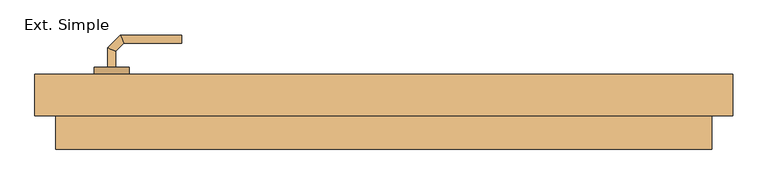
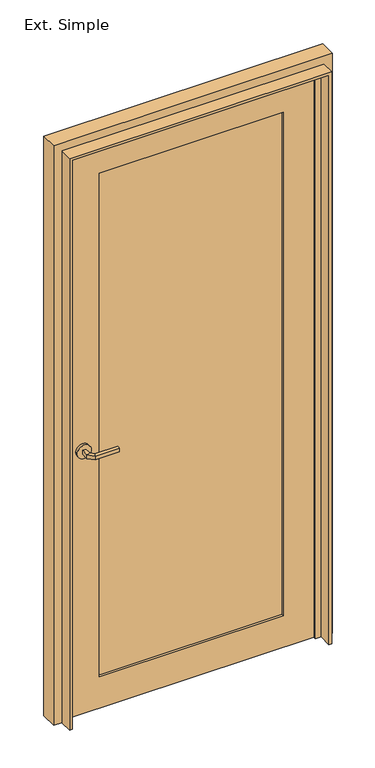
"""IFC4 building model written with IfcOpenShell, lengths in millimetres: door geometry, Ext. Simple : Lisse - 0.90 m x 2.15 m."""

from ifc_helpers import new_model, si_unit, point, frame, frame_2d, origin, place, context, project, spatial, circle_curve, ellipse_curve, trimmed, segment, composite_curve, outline, extrude, faceted_brep, source, transform, mapped, element, save
from ifc_brep_helpers import plane_surface, cylinder_surface, advanced_brep


def ext_simple_6eb875e1(model_context):
    return source(origin(), model_context, "Body", "SolidModel", [
        extrude(outline(composite_curve([segment(trimmed(circle_curve(frame_2d((1000.0, -400.0)), 25.0), [point((1000.0, -425.0))], [point((1000.0, -375.0))], False, "CARTESIAN"), True, "CONTINUOUS"), segment(trimmed(circle_curve(frame_2d((1000.0, -400.0)), 25.0), [point((1000.0, -375.0))], [point((1000.0, -425.0))], False, "CARTESIAN"), True, "CONTINUOUS")], self_intersect=False)), frame((0.0, 160.0, 0.0), z_axis=(0.0, 1.0, 0.0), x_axis=(0.0, 0.0, 1.0)), (0.0, 0.0, 1.0), 10.0),
        extrude(outline(composite_curve([segment(trimmed(circle_curve(frame_2d((1000.0, -400.0)), 25.0), [point((1000.0, -425.0))], [point((1000.0, -375.0))], False, "CARTESIAN"), True, "CONTINUOUS"), segment(trimmed(circle_curve(frame_2d((1000.0, -400.0)), 25.0), [point((1000.0, -375.0))], [point((1000.0, -425.0))], False, "CARTESIAN"), True, "CONTINUOUS")], self_intersect=False)), frame((0.0, 100.0, 0.0), z_axis=(0.0, 1.0, 0.0), x_axis=(0.0, 0.0, 1.0)), (0.0, 0.0, 1.0), 10.0),
        advanced_brep(
        [(-406.0, 170.0, 1007.0), (-406.0, 170.0, 993.0), (-394.0, 170.0, 993.0), (-394.0, 170.0, 1007.0), (-394.0, 192.680388, 1007.0), (-406.0, 197.6509507, 1007.0), (-394.0, 192.680388, 993.0), (-406.0, 197.6509507, 993.0), (-382.6522273, 204.0281607, 1007.0), (-387.62279, 216.0281607, 1007.0), (-382.6522273, 204.0281607, 993.0), (-387.62279, 216.0281607, 993.0), (-299.9813594, 216.0281607, 1007.0), (-299.9813594, 204.0281607, 1007.0), (-299.9813594, 204.0281607, 993.0), (-299.9813594, 216.0281607, 993.0)],
        [
            (0, 1),
            (1, 2, circle_curve(frame((-400.0, 170.0, 1013.0457722), z_axis=(0.0, -1.0, 0.0), x_axis=(1.0, 0.0, 0.0)), 20.9244589)),
            (2, 3),
            (3, 0, circle_curve(frame((-400.0, 170.0, 986.9542278), z_axis=(0.0, -1.0, 0.0), x_axis=(1.0, 0.0, 0.0)), 20.9244589)),
            (3, 4),
            (4, 5, ellipse_curve(frame((-400.0, 195.1656693, 986.9542278), z_axis=(-0.3826834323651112, -0.9238795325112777, 0.0), x_axis=(0.9238795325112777, -0.3826834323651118, 0.0)), 22.6484711, 20.9244589)),
            (5, 0),
            (2, 6),
            (6, 4),
            (1, 7),
            (7, 6, ellipse_curve(frame((-400.0, 195.1656693, 1013.0457722), z_axis=(-0.3826834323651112, -0.9238795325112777, 0.0), x_axis=(0.9238795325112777, -0.3826834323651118, 0.0)), 22.6484711, 20.9244589)),
            (5, 7),
            (4, 8),
            (8, 9, ellipse_curve(frame((-385.1375086, 210.0281607, 986.9542278), z_axis=(-0.9238795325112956, -0.38268343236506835, 0.0), x_axis=(0.3826834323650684, -0.9238795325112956, 0.0)), 22.6484711, 20.9244589)),
            (9, 5),
            (6, 10),
            (10, 8),
            (7, 11),
            (11, 10, ellipse_curve(frame((-385.1375086, 210.0281607, 1013.0457722), z_axis=(-0.9238795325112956, -0.38268343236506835, 0.0), x_axis=(0.3826834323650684, -0.9238795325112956, 0.0)), 22.6484711, 20.9244589)),
            (9, 11),
            (12, 13, circle_curve(frame((-299.9813594, 210.0281607, 986.9542278), z_axis=(1.0, 0.0, 0.0), x_axis=(0.0, -1.0, 0.0)), 20.9244589)),
            (13, 14),
            (14, 15, circle_curve(frame((-299.9813594, 210.0281607, 1013.0457722), z_axis=(1.0, 0.0, 0.0), x_axis=(0.0, -1.0, 0.0)), 20.9244589)),
            (15, 12),
            (8, 13),
            (12, 9),
            (10, 14),
            (11, 15),
        ],
        [
            plane_surface(frame((-409.2195445, 170.0, 1000.0), z_axis=(0.0, -1.0, 0.0), x_axis=(0.0, 0.0, -1.0))),
            cylinder_surface(frame((-400.0, 170.0, 986.9542278), z_axis=(0.0, -1.0, 0.0), x_axis=(1.0, 0.0, 0.0)), 20.9244589),
            plane_surface(frame((-394.0, 170.0, 1007.0), z_axis=(1.0, 0.0, 0.0), x_axis=(0.0, 1.0, 0.0))),
            cylinder_surface(frame((-400.0, 170.0, 1013.0457722), z_axis=(0.0, -1.0, 0.0), x_axis=(1.0, 0.0, 0.0)), 20.9244589),
            plane_surface(frame((-406.0, 170.0, 993.0), z_axis=(-1.0, 0.0, 0.0), x_axis=(0.0, 1.0, 0.0))),
            cylinder_surface(frame((-400.0, 195.1656693, 986.9542278), z_axis=(-0.7071067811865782, -0.7071067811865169, 0.0), x_axis=(0.7071067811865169, -0.7071067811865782, 0.0)), 20.9244589),
            plane_surface(frame((-394.0, 192.680388, 1007.0), z_axis=(0.7071067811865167, -0.7071067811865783, 0.0), x_axis=(0.7071067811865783, 0.7071067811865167, 0.0))),
            cylinder_surface(frame((-400.0, 195.1656693, 1013.0457722), z_axis=(-0.7071067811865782, -0.7071067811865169, 0.0), x_axis=(0.7071067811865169, -0.7071067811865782, 0.0)), 20.9244589),
            plane_surface(frame((-406.0, 197.6509507, 993.0), z_axis=(-0.7071067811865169, 0.7071067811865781, 0.0), x_axis=(0.7071067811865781, 0.7071067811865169, 0.0))),
            plane_surface(frame((-299.9813594, 210.0281607, 990.7804555), z_axis=(1.0, 0.0, 0.0), x_axis=(0.0, -1.0, 0.0))),
            cylinder_surface(frame((-385.1375086, 210.0281607, 986.9542278), z_axis=(-1.0, 0.0, 0.0), x_axis=(0.0, -1.0, 0.0)), 20.9244589),
            plane_surface(frame((-382.6522273, 204.0281607, 1007.0), z_axis=(0.0, -1.0, 0.0), x_axis=(1.0, 0.0, 0.0))),
            cylinder_surface(frame((-385.1375086, 210.0281607, 1013.0457722), z_axis=(-1.0, 0.0, 0.0), x_axis=(0.0, -1.0, 0.0)), 20.9244589),
            plane_surface(frame((-387.62279, 216.0281607, 993.0), z_axis=(0.0, 1.0, 0.0), x_axis=(1.0, 0.0, 0.0))),
        ],
        [
            (0, [[1, 2, 3, 4]]),
            (1, [[5, 6, 7, -4]]),
            (2, [[8, 9, -5, -3]]),
            (3, [[10, 11, -8, -2]]),
            (4, [[-7, 12, -10, -1]]),
            (5, [[13, 14, 15, -6]]),
            (6, [[16, 17, -13, -9]]),
            (7, [[18, 19, -16, -11]]),
            (8, [[-15, 20, -18, -12]]),
            (9, [[21, 22, 23, 24]]),
            (10, [[25, -21, 26, -14]]),
            (11, [[27, -22, -25, -17]]),
            (12, [[28, -23, -27, -19]]),
            (13, [[-26, -24, -28, -20]]),
        ],
    ),
        advanced_brep(
        [(-394.0, 100.0, 993.0), (-406.0, 100.0, 993.0), (-406.0, 100.0, 1007.0), (-394.0, 100.0, 1007.0), (-394.0, 77.5147955, 1007.0), (-394.0, 77.5147955, 993.0), (-406.0, 72.5442327, 1007.0), (-406.0, 72.5442327, 993.0), (-382.5147186, 66.0295141, 1007.0), (-382.5147186, 66.0295141, 993.0), (-387.4852814, 54.0295141, 1007.0), (-387.4852814, 54.0295141, 993.0), (-299.9542163, 66.0295141, 993.0), (-299.9542163, 66.0295141, 1007.0), (-299.9542163, 54.0295141, 1007.0), (-299.9542163, 54.0295141, 993.0)],
        [
            (0, 1, circle_curve(frame((-400.0, 100.0, 1013.0457722), z_axis=(0.0, 1.0, 0.0), x_axis=(-1.0, 0.0, 0.0)), 20.9244589)),
            (1, 2),
            (2, 3, circle_curve(frame((-400.0, 100.0, 986.9542278), z_axis=(0.0, 1.0, 0.0), x_axis=(-1.0, 0.0, 0.0)), 20.9244589)),
            (3, 0),
            (3, 4),
            (4, 5),
            (5, 0),
            (2, 6),
            (6, 4, ellipse_curve(frame((-400.0, 75.0295141, 986.9542278), z_axis=(-0.3826834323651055, 0.9238795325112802, 0.0), x_axis=(0.9238795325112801, 0.3826834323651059, 0.0)), 22.6484711, 20.9244589)),
            (1, 7),
            (7, 6),
            (5, 7, ellipse_curve(frame((-400.0, 75.0295141, 1013.0457722), z_axis=(-0.3826834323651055, 0.9238795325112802, 0.0), x_axis=(0.9238795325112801, 0.3826834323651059, 0.0)), 22.6484711, 20.9244589)),
            (4, 8),
            (8, 9),
            (9, 5),
            (6, 10),
            (10, 8, ellipse_curve(frame((-385.0, 60.0295141, 986.9542278), z_axis=(-0.9238795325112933, 0.382683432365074, 0.0), x_axis=(0.38268343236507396, 0.9238795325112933, 0.0)), 22.6484711, 20.9244589)),
            (7, 11),
            (11, 10),
            (9, 11, ellipse_curve(frame((-385.0, 60.0295141, 1013.0457722), z_axis=(-0.9238795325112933, 0.382683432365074, 0.0), x_axis=(0.38268343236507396, 0.9238795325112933, 0.0)), 22.6484711, 20.9244589)),
            (12, 13),
            (13, 14, circle_curve(frame((-299.9542163, 60.0295141, 986.9542278), z_axis=(1.0, 0.0, 0.0), x_axis=(0.0, -1.0, 0.0)), 20.9244589)),
            (14, 15),
            (15, 12, circle_curve(frame((-299.9542163, 60.0295141, 1013.0457722), z_axis=(1.0, 0.0, 0.0), x_axis=(0.0, -1.0, 0.0)), 20.9244589)),
            (8, 13),
            (12, 9),
            (10, 14),
            (11, 15),
        ],
        [
            plane_surface(frame((-409.2195445, 100.0, 1000.0), z_axis=(0.0, 1.0, 0.0), x_axis=(0.0, 0.0, 1.0))),
            plane_surface(frame((-394.0, 100.0, 993.0), z_axis=(1.0, 0.0, 0.0), x_axis=(0.0, -1.0, 0.0))),
            cylinder_surface(frame((-400.0, 100.0, 986.9542278), z_axis=(0.0, 1.0, 0.0), x_axis=(-1.0, 0.0, 0.0)), 20.9244589),
            plane_surface(frame((-406.0, 100.0, 1007.0), z_axis=(-1.0, 0.0, 0.0), x_axis=(0.0, -1.0, 0.0))),
            cylinder_surface(frame((-400.0, 100.0, 1013.0457722), z_axis=(0.0, 1.0, 0.0), x_axis=(-1.0, 0.0, 0.0)), 20.9244589),
            plane_surface(frame((-394.0, 77.5147955, 993.0), z_axis=(0.7071067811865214, 0.7071067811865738, 0.0), x_axis=(0.7071067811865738, -0.7071067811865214, 0.0))),
            cylinder_surface(frame((-400.0, 75.0295141, 986.9542278), z_axis=(-0.7071067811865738, 0.7071067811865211, 0.0), x_axis=(-0.7071067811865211, -0.7071067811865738, 0.0)), 20.9244589),
            plane_surface(frame((-406.0, 72.5442327, 1007.0), z_axis=(-0.7071067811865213, -0.7071067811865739, 0.0), x_axis=(0.7071067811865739, -0.7071067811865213, 0.0))),
            cylinder_surface(frame((-400.0, 75.0295141, 1013.0457722), z_axis=(-0.7071067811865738, 0.7071067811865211, 0.0), x_axis=(-0.7071067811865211, -0.7071067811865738, 0.0)), 20.9244589),
            plane_surface(frame((-299.9542163, 60.0295141, 990.7804555), z_axis=(1.0, 0.0, 0.0), x_axis=(0.0, -1.0, 0.0))),
            plane_surface(frame((-382.5147186, 66.0295141, 993.0), z_axis=(0.0, 1.0, 0.0), x_axis=(1.0, 0.0, 0.0))),
            cylinder_surface(frame((-385.0, 60.0295141, 986.9542278), z_axis=(-1.0, 0.0, 0.0), x_axis=(0.0, -1.0, 0.0)), 20.9244589),
            plane_surface(frame((-387.4852814, 54.0295141, 1007.0), z_axis=(0.0, -1.0, 0.0), x_axis=(1.0, 0.0, 0.0))),
            cylinder_surface(frame((-385.0, 60.0295141, 1013.0457722), z_axis=(-1.0, 0.0, 0.0), x_axis=(0.0, -1.0, 0.0)), 20.9244589),
        ],
        [
            (0, [[1, 2, 3, 4]]),
            (1, [[5, 6, 7, -4]]),
            (2, [[8, 9, -5, -3]]),
            (3, [[10, 11, -8, -2]]),
            (4, [[-7, 12, -10, -1]]),
            (5, [[13, 14, 15, -6]]),
            (6, [[16, 17, -13, -9]]),
            (7, [[18, 19, -16, -11]]),
            (8, [[-15, 20, -18, -12]]),
            (9, [[21, 22, 23, 24]]),
            (10, [[25, -21, 26, -14]]),
            (11, [[27, -22, -25, -17]]),
            (12, [[28, -23, -27, -19]]),
            (13, [[-26, -24, -28, -20]]),
        ],
    ),
        faceted_brep([(-460.0, 110.0, 2150.0), (-460.0, 110.0, 0.0), (440.0, 110.0, 0.0), (440.0, 110.0, 2150.0), (-340.0, 110.0, 2030.0), (320.0, 110.0, 2030.0), (320.0, 110.0, 120.0), (-340.0, 110.0, 120.0), (-460.0, 160.0, 2150.0), (440.0, 160.0, 2150.0), (440.0, 160.0, 0.0), (-460.0, 160.0, 0.0), (320.0, 160.0, 2030.0), (-340.0, 160.0, 2030.0), (-340.0, 160.0, 120.0), (320.0, 160.0, 120.0), (320.0, 152.0, 2030.0), (320.0, 152.0, 120.0), (-340.0, 152.0, 120.0), (-340.0, 152.0, 2030.0), (-340.0, 118.0, 2030.0), (-340.0, 118.0, 120.0), (320.0, 118.0, 120.0), (320.0, 118.0, 2030.0)], [[[0, 1, 2, 3], [4, 5, 6, 7]], [[8, 9, 10, 11], [12, 13, 14, 15]], [[3, 9, 8, 0]], [[2, 10, 9, 3]], [[1, 11, 10, 2]], [[0, 8, 11, 1]], [[16, 17, 18, 19]], [[16, 12, 15, 17]], [[17, 15, 14, 18]], [[18, 14, 13, 19]], [[19, 13, 12, 16]], [[20, 21, 22, 23]], [[20, 4, 7, 21]], [[21, 7, 6, 22]], [[22, 6, 5, 23]], [[23, 5, 4, 20]]]),
        faceted_brep([(-510.0, 100.0, 0.0), (-510.0, 160.0, 0.0), (-460.0, 160.0, 0.0), (-460.0, 110.0, 0.0), (-450.0, 110.0, 0.0), (-450.0, 100.0, 0.0), (-470.0, 100.0, 0.0), (-470.0, 52.0, 0.0), (-480.0, 52.0, 0.0), (-480.0, 100.0, 0.0), (-480.0, 100.0, 2170.0), (460.0, 100.0, 2170.0), (460.0, 100.0, 0.0), (490.0, 100.0, 0.0), (490.0, 100.0, 2200.0), (-510.0, 100.0, 2200.0), (-480.0, 52.0, 2170.0), (-470.0, 52.0, 2160.0), (450.0, 52.0, 2160.0), (450.0, 52.0, 0.0), (460.0, 52.0, 0.0), (460.0, 52.0, 2170.0), (-470.0, 100.0, 2160.0), (-450.0, 100.0, 2140.0), (430.0, 100.0, 2140.0), (430.0, 100.0, 0.0), (450.0, 100.0, 0.0), (450.0, 100.0, 2160.0), (-450.0, 110.0, 2140.0), (-460.0, 110.0, 2150.0), (440.0, 110.0, 2150.0), (440.0, 110.0, 0.0), (430.0, 110.0, 0.0), (430.0, 110.0, 2140.0), (-460.0, 160.0, 2150.0), (-510.0, 160.0, 2200.0), (490.0, 160.0, 2200.0), (490.0, 160.0, 0.0), (440.0, 160.0, 0.0), (440.0, 160.0, 2150.0)], [[[0, 1, 2, 3, 4, 5, 6, 7, 8, 9]], [[9, 10, 11, 12, 13, 14, 15, 0]], [[8, 16, 10, 9]], [[7, 17, 18, 19, 20, 21, 16, 8]], [[6, 22, 17, 7]], [[5, 23, 24, 25, 26, 27, 22, 6]], [[4, 28, 23, 5]], [[3, 29, 30, 31, 32, 33, 28, 4]], [[2, 34, 29, 3]], [[1, 35, 36, 37, 38, 39, 34, 2]], [[0, 15, 35, 1]], [[14, 13, 37, 36]], [[13, 12, 20, 19, 26, 25, 32, 31, 38, 37]], [[21, 20, 12, 11]], [[27, 26, 19, 18]], [[33, 32, 25, 24]], [[39, 38, 31, 30]], [[16, 21, 11, 10]], [[22, 27, 18, 17]], [[28, 33, 24, 23]], [[34, 39, 30, 29]], [[15, 14, 36, 35]]]),
    ])


if __name__ == "__main__":
    model = new_model("IFC4")
    model_context = context("Model", 3, world=origin())
    ifc_project = project(units=[si_unit("LENGTHUNIT", "METRE", prefix="MILLI")], contexts=[model_context])
    site = spatial("IfcSite", under=ifc_project)
    building = spatial("IfcBuilding", under=site)
    placement = place(None, origin())
    ext_simple_shape = ext_simple_6eb875e1(model_context)
    element("IfcDoor", 1, ObjectType="Ext. Simple : Lisse - 0.90 m x 2.15 m", at=placement, inside=building, context=model_context, shape_type="MappedRepresentation", body=[
        mapped(ext_simple_shape, transform((0.0, 0.0, 0.0), x_axis=(1.0, 0.0, 0.0), y_axis=(0.0, 1.0, 0.0), z_axis=(0.0, 0.0, 1.0))),
    ])
    save(model, "model.ifc")
